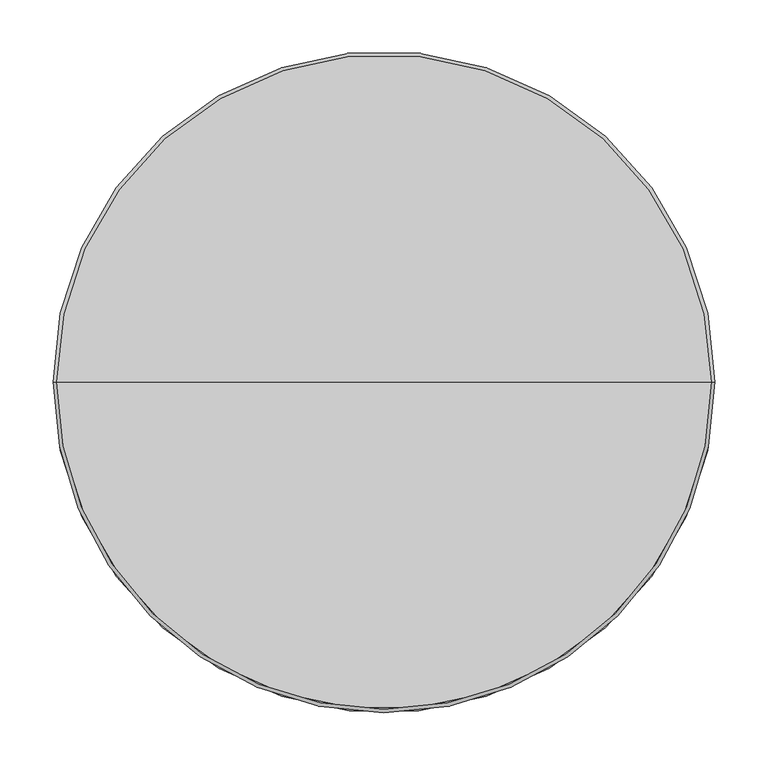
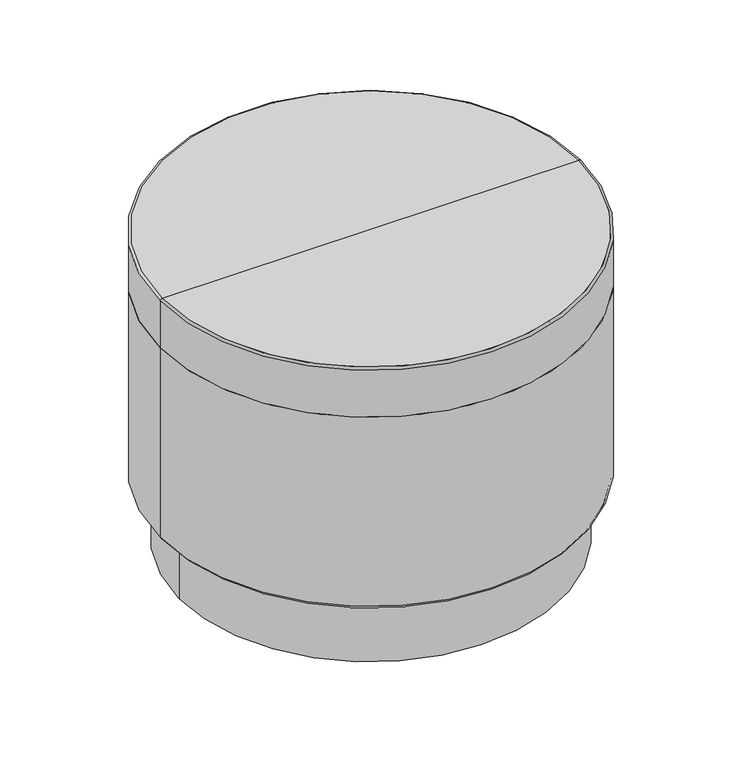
"""IFC4 building model written with IfcOpenShell, lengths in millimetres: furniture geometry, StanceHC-Drum_Table-Plinth_Base : 3-DRT24D20-U-PL."""

import ifcopenshell
import ifcopenshell.guid

model = None  # the IFC model being written
_history = None  # IfcOwnerHistory: only IFC2X3 demands one
_inside = {}  # id of a spatial element -> (the spatial element, [elements in it])
_under = {}  # id of a project, library or spatial element -> (it, [spatial elements below it])
_declared = {}  # id of a project -> (the project, [libraries it declares])
_typed = {}  # id of a type object -> (the type object, [elements of that type])
_made_of = {}  # id of a material, layer set ... -> (it, [elements and type objects made of it])


def new_model(schema):
    """Start an empty IFC model of exactly this schema.

    Asked for "IFC4X3", IfcOpenShell would pick the latest addendum, in which some entities
    have other attributes; the version numbers below select the first issue.
    IFC2X3 requires an IfcOwnerHistory on every rooted entity: one is made here for all.
    """
    global model, _history
    if schema == "IFC4X3":
        model = ifcopenshell.file(schema_version=(4, 3, 0, 0))
    else:
        model = ifcopenshell.file(schema=schema)
    _inside.clear()
    _under.clear()
    _declared.clear()
    _typed.clear()
    _made_of.clear()
    _history = None
    if model.schema == "IFC2X3":
        org = make("IfcOrganization", Name="unknown")
        user = make(
            "IfcPersonAndOrganization",
            ThePerson=make("IfcPerson", FamilyName="unknown"),
            TheOrganization=org,
        )
        app = make(
            "IfcApplication",
            ApplicationDeveloper=org,
            Version="unknown",
            ApplicationFullName="unknown",
            ApplicationIdentifier="unknown",
        )
        _history = make(
            "IfcOwnerHistory",
            OwningUser=user,
            OwningApplication=app,
            ChangeAction="ADDED",
            CreationDate=0,
        )
    return model


def make(cls, **values):
    """One entity of the class cls with the attributes given. An attribute that is None is left unset."""
    return model.create_entity(
        cls, **{name: value for name, value in values.items() if value is not None}
    )


def rooted(cls, **values):
    """An entity with a GlobalId (a new one), such as an element, a storey or a relation."""
    return make(cls, GlobalId=ifcopenshell.guid.new(), OwnerHistory=_history, **values)


def si_unit(unit_type, name, prefix=None):
    """IfcSIUnit, for example si_unit("LENGTHUNIT", "METRE", prefix="MILLI")."""
    return make("IfcSIUnit", UnitType=unit_type, Prefix=prefix, Name=name)


def assignment(units):
    """IfcUnitAssignment: the units of a project."""
    return None if units is None else make("IfcUnitAssignment", Units=units)


def point(xyz):
    """IfcCartesianPoint."""
    return None if xyz is None else make("IfcCartesianPoint", Coordinates=xyz)


def direction(xyz):
    """IfcDirection."""
    return None if xyz is None else make("IfcDirection", DirectionRatios=xyz)


def frame(location, z_axis=None, x_axis=None):
    """IfcAxis2Placement3D, a coordinate frame: its origin and axes. An axis left out is left unset."""
    return make(
        "IfcAxis2Placement3D",
        Location=point(location),
        Axis=direction(z_axis),
        RefDirection=direction(x_axis),
    )


def frame_2d(location, x_axis=None):
    """IfcAxis2Placement2D, a coordinate frame in the plane: its origin and x axis."""
    return make(
        "IfcAxis2Placement2D", Location=point(location), RefDirection=direction(x_axis)
    )


def origin():
    """The frame at (0, 0, 0) with its axes left unset."""
    return frame((0.0, 0.0, 0.0))


def origin_with_axes():
    """The frame at (0, 0, 0) with the z axis (0, 0, 1) and the x axis (1, 0, 0) written out."""
    return frame((0.0, 0.0, 0.0), z_axis=(0.0, 0.0, 1.0), x_axis=(1.0, 0.0, 0.0))


def place(relative_to, where):
    """IfcLocalPlacement: puts the frame where relative to a parent placement (None: the world)."""
    return make(
        "IfcLocalPlacement", PlacementRelTo=relative_to, RelativePlacement=where
    )


def context(
    kind, dimensions, precision=None, world=None, true_north=None, identifier=None
):
    """IfcGeometricRepresentationContext, for example the 3D "Model" context."""
    return make(
        "IfcGeometricRepresentationContext",
        ContextIdentifier=identifier,
        ContextType=kind,
        CoordinateSpaceDimension=dimensions,
        Precision=precision,
        WorldCoordinateSystem=world,
        TrueNorth=true_north,
    )


def project(units=None, contexts=None):
    """IfcProject with its units and contexts."""
    return rooted(
        "IfcProject",
        Name="project",
        RepresentationContexts=contexts,
        UnitsInContext=assignment(units),
    )


def spatial(cls, under=None, at=None, **own):
    """A site, building, storey or space (cls), placed at a placement, below another one or the project."""
    s = rooted(cls, ObjectPlacement=at, **own)
    if under is not None:
        _under.setdefault(under.id(), (under, []))[1].append(s)
    return s


def circle_curve(where, radius):
    """IfcCircle in the frame where."""
    return make("IfcCircle", Position=where, Radius=radius)


def ellipse_curve(where, semi_axis1, semi_axis2):
    """IfcEllipse in the frame where."""
    return make(
        "IfcEllipse", Position=where, SemiAxis1=semi_axis1, SemiAxis2=semi_axis2
    )


def trimmed(basis, trim1, trim2, sense, master):
    """IfcTrimmedCurve: the piece of a basis curve between two trims."""
    return make(
        "IfcTrimmedCurve",
        BasisCurve=basis,
        Trim1=trim1,
        Trim2=trim2,
        SenseAgreement=sense,
        MasterRepresentation=master,
    )


def segment(curve, same_sense, transition):
    """IfcCompositeCurveSegment."""
    return make(
        "IfcCompositeCurveSegment",
        Transition=transition,
        SameSense=same_sense,
        ParentCurve=curve,
    )


def composite_curve(segments, self_intersect=None):
    """IfcCompositeCurve: segments joined end to end."""
    return make("IfcCompositeCurve", Segments=segments, SelfIntersect=self_intersect)


def outline(outer, holes=None, kind="AREA"):
    """IfcArbitraryClosedProfileDef: a profile drawn as a closed curve; with holes, ...WithVoids."""
    if holes is None:
        return make("IfcArbitraryClosedProfileDef", ProfileType=kind, OuterCurve=outer)
    return make(
        "IfcArbitraryProfileDefWithVoids",
        ProfileType=kind,
        OuterCurve=outer,
        InnerCurves=holes,
    )


def extrude(swept, where, along, depth):
    """IfcExtrudedAreaSolid: the profile swept, set in the frame where, extruded along a direction by depth."""
    return make(
        "IfcExtrudedAreaSolid",
        SweptArea=swept,
        Position=where,
        ExtrudedDirection=direction(along),
        Depth=depth,
    )


def shape(context_of_items, identifier, shape_type, items):
    """IfcShapeRepresentation: the items that make up one representation, for example the "Body"."""
    return make(
        "IfcShapeRepresentation",
        ContextOfItems=context_of_items,
        RepresentationIdentifier=identifier,
        RepresentationType=shape_type,
        Items=items,
    )


def source(mapping_origin, context_of_items, identifier, shape_type, items):
    """IfcRepresentationMap: a shape defined once, which mapped items show again and again."""
    return make(
        "IfcRepresentationMap",
        MappingOrigin=mapping_origin,
        MappedRepresentation=shape(context_of_items, identifier, shape_type, items),
    )


def transform(
    local_origin,
    x_axis=None,
    y_axis=None,
    z_axis=None,
    scale=None,
    scale2=None,
    scale3=None,
    uniform=True,
):
    """IfcCartesianTransformationOperator3D, or its non-uniform kind. x_axis, y_axis, z_axis: its Axis1, 2, 3."""
    if uniform:
        return make(
            "IfcCartesianTransformationOperator3D",
            Axis1=direction(x_axis),
            Axis2=direction(y_axis),
            LocalOrigin=point(local_origin),
            Scale=scale,
            Axis3=direction(z_axis),
        )
    return make(
        "IfcCartesianTransformationOperator3DnonUniform",
        Axis1=direction(x_axis),
        Axis2=direction(y_axis),
        LocalOrigin=point(local_origin),
        Scale=scale,
        Axis3=direction(z_axis),
        Scale2=scale2,
        Scale3=scale3,
    )


def mapped(mapping_source, mapping_target):
    """IfcMappedItem: shows the shape of a source again, moved by a transform."""
    return make(
        "IfcMappedItem", MappingSource=mapping_source, MappingTarget=mapping_target
    )


def made_of(thing, what):
    """Note that an element or type object is made of a material, layer set ...; save() writes the relation."""
    if what is not None:
        _made_of.setdefault(what.id(), (what, []))[1].append(thing)
    return thing


def element(
    cls,
    number,
    at=None,
    inside=None,
    cuts=None,
    type_object=None,
    material=None,
    context=None,
    identifier="Body",
    shape_type=None,
    held_by="IfcProductDefinitionShape",
    body=None,
    shapes=None,
    **own,
):
    """One element of the class cls, such as IfcWall. Its Tag is "e" and its number.

    at: its placement. inside: the storey or other place that contains it. cuts: it is an
    opening in that element (IfcRelVoidsElement). A single representation is given by context,
    identifier, shape_type and body (its items); several are given by shapes. held_by: the class
    of the entity that holds the representations. save() writes the other relations.
    """
    e = rooted(cls, Tag="e%d" % number, ObjectPlacement=at, **own)
    if body is not None:
        shapes = [shape(context, identifier, shape_type, body)]
    if shapes is not None:
        e.Representation = make(held_by, Representations=shapes)
    if inside is not None:
        _inside.setdefault(inside.id(), (inside, []))[1].append(e)
    if cuts is not None:
        rooted(
            "IfcRelVoidsElement", RelatingBuildingElement=cuts, RelatedOpeningElement=e
        )
    if type_object is not None:
        _typed.setdefault(type_object.id(), (type_object, []))[1].append(e)
    return made_of(e, material)


def aggregate(whole, parts):
    """IfcRelAggregates: a whole, such as a stair, and the parts it consists of."""
    return rooted("IfcRelAggregates", RelatingObject=whole, RelatedObjects=parts)


def save(model, path):
    """Write the relations noted so far, then the file.

    IfcRelAggregates (storeys below a building ...), IfcRelContainedInSpatialStructure (elements
    in a storey), IfcRelDefinesByType, IfcRelAssociatesMaterial and IfcRelDeclares: one each for
    every whole, place, type object, material and project.
    """
    for whole, parts in _under.values():
        aggregate(whole, parts)
    for where, things in _inside.values():
        rooted(
            "IfcRelContainedInSpatialStructure",
            RelatedElements=things,
            RelatingStructure=where,
        )
    for kind, things in _typed.values():
        rooted("IfcRelDefinesByType", RelatedObjects=things, RelatingType=kind)
    for what, things in _made_of.values():
        rooted("IfcRelAssociatesMaterial", RelatedObjects=things, RelatingMaterial=what)
    for by, libraries in _declared.values():
        rooted("IfcRelDeclares", RelatingContext=by, RelatedDefinitions=libraries)
    model.write(path)


def plane_surface(at):
    """IfcPlane: the flat surface through the origin of the frame at, square to its z axis."""
    return make("IfcPlane", Position=at)


def cylinder_surface(at, radius):
    """IfcCylindricalSurface: all points at the distance radius from the z axis of the frame at."""
    return make("IfcCylindricalSurface", Position=at, Radius=radius)


def revolved_surface(curve, axis_point, axis_direction):
    """IfcSurfaceOfRevolution: the curve turned about the line through axis_point along axis_direction."""
    return make(
        "IfcSurfaceOfRevolution",
        SweptCurve=make("IfcArbitraryOpenProfileDef", ProfileType="CURVE", Curve=curve),
        AxisPosition=make("IfcAxis1Placement", Location=point(axis_point), Axis=direction(axis_direction)),
    )


def advanced_brep(points, edges, surfaces, faces):
    """IfcAdvancedBrep: a solid bounded by faces that lie on surfaces and meet in shared edges.

    An edge is (start, end): straight between two places in points (the first is 0);
    or (start, end, curve); or (start, end, curve, False) where it runs against its curve.
    A face is (place in surfaces, loops), or (place, loops, False) where it looks against
    its surface's normal. A loop lists edges by number (the first is 1), with a minus sign
    where the edge is run from its end to its start. The first loop is the outer one.
    """
    corners = [point(p) for p in points]
    vertices = [make("IfcVertexPoint", VertexGeometry=c) for c in corners]
    made = []
    for start, end, *more in edges:
        made.append(
            make(
                "IfcEdgeCurve",
                EdgeStart=vertices[start],
                EdgeEnd=vertices[end],
                EdgeGeometry=more[0] if more else make("IfcPolyline", Points=[corners[start], corners[end]]),
                SameSense=more[1] if len(more) > 1 else True,
            )
        )
    hull = []
    for where, loops, *sense in faces:
        bounds = []
        for j, loop in enumerate(loops):
            ring = [make("IfcOrientedEdge", EdgeElement=made[abs(k) - 1], Orientation=k > 0) for k in loop]
            bounds.append(
                make(
                    "IfcFaceOuterBound" if j == 0 else "IfcFaceBound",
                    Bound=make("IfcEdgeLoop", EdgeList=ring),
                    Orientation=True,
                )
            )
        hull.append(make("IfcAdvancedFace", Bounds=bounds, FaceSurface=surfaces[where], SameSense=sense[0] if sense else True))
    return make("IfcAdvancedBrep", Outer=make("IfcClosedShell", CfsFaces=hull))


def furniture_1fc6e2c9(model_context):
    return source(origin(), model_context, "Body", "SolidModel", [
        extrude(outline(composite_curve([segment(trimmed(circle_curve(frame_2d((0.0, 250.1164845)), 12.7), [point((-12.7, 250.1164845))], [point((12.7, 250.1164845))], False, "CARTESIAN"), True, "CONTINUOUS"), segment(trimmed(circle_curve(frame_2d((0.0, 250.1164845)), 12.7), [point((12.7, 250.1164845))], [point((-12.7, 250.1164845))], False, "CARTESIAN"), True, "CONTINUOUS")], self_intersect=False)), origin_with_axes(), (0.0, 0.0, 1.0), 4.7625),
        extrude(outline(composite_curve([segment(trimmed(circle_curve(frame_2d((0.0, -250.1164845)), 12.7), [point((-12.7, -250.1164845))], [point((12.7, -250.1164845))], False, "CARTESIAN"), True, "CONTINUOUS"), segment(trimmed(circle_curve(frame_2d((0.0, -250.1164845)), 12.7), [point((12.7, -250.1164845))], [point((-12.7, -250.1164845))], False, "CARTESIAN"), True, "CONTINUOUS")], self_intersect=False)), origin_with_axes(), (0.0, 0.0, 1.0), 4.7625),
        extrude(outline(composite_curve([segment(trimmed(circle_curve(frame_2d((253.9996404, 0.0)), 12.7), [point((241.2996404, 0.0))], [point((266.6996404, 0.0))], False, "CARTESIAN"), True, "CONTINUOUS"), segment(trimmed(circle_curve(frame_2d((253.9996404, 0.0)), 12.7), [point((266.6996404, 0.0))], [point((241.2996404, 0.0))], False, "CARTESIAN"), True, "CONTINUOUS")], self_intersect=False)), origin_with_axes(), (0.0, 0.0, 1.0), 4.7625),
        extrude(outline(composite_curve([segment(trimmed(circle_curve(frame_2d((-253.9996404, 0.0)), 12.7), [point((-266.6996404, 0.0))], [point((-241.2996404, 0.0))], False, "CARTESIAN"), True, "CONTINUOUS"), segment(trimmed(circle_curve(frame_2d((-253.9996404, 0.0)), 12.7), [point((-241.2996404, 0.0))], [point((-266.6996404, 0.0))], False, "CARTESIAN"), True, "CONTINUOUS")], self_intersect=False)), origin_with_axes(), (0.0, 0.0, 1.0), 4.7625),
        advanced_brep(
        [(-306.3542756, 0.0, 106.3625), (306.3542756, 0.0, 106.3625), (282.5746404, 0.0, 106.3625), (-282.5746404, 0.0, 106.3625), (-306.3542756, 0.0, 111.125), (306.3542756, 0.0, 111.125), (0.0, 0.0, 111.125), (-282.5746404, 0.0, 4.7625), (282.5746404, 0.0, 4.7625), (0.0, 0.0, 4.7625)],
        [
            (0, 1, circle_curve(frame((0.0, 0.0, 106.3625), z_axis=(0.0, 0.0, -1.0), x_axis=(1.0, 0.0, 0.0)), 306.3542756)),
            (1, 2),
            (2, 3, circle_curve(frame((0.0, 0.0, 106.3625), z_axis=(0.0, 0.0, 1.0), x_axis=(1.0, 0.0, 0.0)), 282.5746404)),
            (3, 0),
            (1, 0, circle_curve(frame((0.0, 0.0, 106.3625), z_axis=(0.0, 0.0, -1.0), x_axis=(1.0, 0.0, 0.0)), 306.3542756)),
            (3, 2, circle_curve(frame((0.0, 0.0, 106.3625), z_axis=(0.0, 0.0, 1.0), x_axis=(1.0, 0.0, 0.0)), 282.5746404)),
            (4, 5, circle_curve(frame((0.0, 0.0, 111.125), z_axis=(0.0, 0.0, -1.0), x_axis=(1.0, 0.0, 0.0)), 306.3542756)),
            (5, 1, circle_curve(frame((306.3542756, 0.0, 108.74375), z_axis=(0.0, 1.0, 0.0), x_axis=(1.0, 0.0, 0.0)), 2.38125)),
            (0, 4, circle_curve(frame((-306.3542756, 0.0, 108.74375), z_axis=(0.0, 1.0, 0.0), x_axis=(-1.0, 0.0, 0.0)), 2.38125)),
            (5, 4, circle_curve(frame((0.0, 0.0, 111.125), z_axis=(0.0, 0.0, -1.0), x_axis=(1.0, 0.0, 0.0)), 306.3542756)),
            (6, 5),
            (4, 6),
            (7, 8, circle_curve(frame((0.0, 0.0, 4.7625), z_axis=(0.0, 0.0, -1.0), x_axis=(1.0, 0.0, 0.0)), 282.5746404)),
            (8, 9),
            (9, 7),
            (8, 7, circle_curve(frame((0.0, 0.0, 4.7625), z_axis=(0.0, 0.0, -1.0), x_axis=(1.0, 0.0, 0.0)), 282.5746404)),
            (2, 8),
            (7, 3),
        ],
        [
            plane_surface(frame((0.0, 0.0, 106.3625), z_axis=(0.0, 0.0, -1.0), x_axis=(1.0, 0.0, 0.0))),
            revolved_surface(trimmed(ellipse_curve(frame((306.3542756, 0.0, 108.74375), z_axis=(0.0, -1.0, 0.0), x_axis=(1.0, 0.0, 0.0)), 2.38125, 2.38125), [point((306.3542756, 0.0, 106.3625))], [point((306.3542756, 0.0, 111.125))], True, "CARTESIAN"), (0.0, 0.0, 165.1), (0.0, 0.0, 1.0)),
            plane_surface(frame((0.0, 0.0, 111.125), z_axis=(0.0, 0.0, 1.0), x_axis=(1.0, 0.0, 0.0))),
            plane_surface(frame((0.0, 0.0, 4.7625), z_axis=(0.0, 0.0, -1.0), x_axis=(1.0, 0.0, 0.0))),
            cylinder_surface(frame((0.0, 0.0, 165.1), z_axis=(0.0, 0.0, 1.0), x_axis=(1.0, 0.0, 0.0)), 282.5746404),
        ],
        [
            (0, [[1, 2, 3, 4]]),
            (0, [[5, -4, 6, -2]]),
            (1, [[7, 8, -1, 9]]),
            (1, [[10, -9, -5, -8]]),
            (2, [[11, -7, 12]]),
            (2, [[-12, -10, -11]]),
            (3, [[13, 14, 15]]),
            (3, [[16, -15, -14]]),
            (4, [[-3, 17, -13, 18]]),
            (4, [[-6, -18, -16, -17]]),
        ],
    ),
        advanced_brep(
        [(0.0, 0.0, 406.4), (311.15, 0.0, 406.4), (-311.15, 0.0, 406.4), (-311.15, 0.0, 111.125), (311.15, 0.0, 111.125), (0.0, 0.0, 111.125)],
        [
            (0, 1),
            (1, 2, circle_curve(frame((0.0, 0.0, 406.4), z_axis=(0.0, 0.0, 1.0), x_axis=(1.0, 0.0, 0.0)), 311.15)),
            (2, 0),
            (2, 1, circle_curve(frame((0.0, 0.0, 406.4), z_axis=(0.0, 0.0, 1.0), x_axis=(1.0, 0.0, 0.0)), 311.15)),
            (3, 4, circle_curve(frame((0.0, 0.0, 111.125), z_axis=(0.0, 0.0, -1.0), x_axis=(1.0, 0.0, 0.0)), 311.15)),
            (4, 5),
            (5, 3),
            (4, 3, circle_curve(frame((0.0, 0.0, 111.125), z_axis=(0.0, 0.0, -1.0), x_axis=(1.0, 0.0, 0.0)), 311.15)),
            (1, 4),
            (3, 2),
        ],
        [
            plane_surface(frame((0.0, 0.0, 406.4), z_axis=(0.0, 0.0, 1.0), x_axis=(1.0, 0.0, 0.0))),
            plane_surface(frame((0.0, 0.0, 111.125), z_axis=(0.0, 0.0, -1.0), x_axis=(1.0, 0.0, 0.0))),
            cylinder_surface(frame((0.0, 0.0, 558.8), z_axis=(0.0, 0.0, 1.0), x_axis=(1.0, 0.0, 0.0)), 311.15),
        ],
        [
            (0, [[1, 2, 3]]),
            (0, [[-3, 4, -1]]),
            (1, [[5, 6, 7]]),
            (1, [[8, -7, -6]]),
            (2, [[-2, 9, -5, 10]]),
            (2, [[-4, -10, -8, -9]]),
        ],
    ),
        advanced_brep(
        [(-311.15, 0.0, 406.4), (311.15, 0.0, 406.4), (0.0, 0.0, 406.4), (-311.15, 0.0, 479.4764933), (311.15, 0.0, 479.4764933), (-308.0264933, 0.0, 482.6), (308.0264933, 0.0, 482.6), (0.0, 0.0, 482.6)],
        [
            (0, 1, circle_curve(frame((0.0, 0.0, 406.4), z_axis=(0.0, 0.0, -1.0), x_axis=(1.0, 0.0, 0.0)), 311.15)),
            (1, 2),
            (2, 0),
            (1, 0, circle_curve(frame((0.0, 0.0, 406.4), z_axis=(0.0, 0.0, -1.0), x_axis=(1.0, 0.0, 0.0)), 311.15)),
            (3, 4, circle_curve(frame((0.0, 0.0, 479.4764933), z_axis=(0.0, 0.0, -1.0), x_axis=(1.0, 0.0, 0.0)), 311.15)),
            (4, 1),
            (0, 3),
            (4, 3, circle_curve(frame((0.0, 0.0, 479.4764933), z_axis=(0.0, 0.0, -1.0), x_axis=(1.0, 0.0, 0.0)), 311.15)),
            (5, 6, circle_curve(frame((0.0, 0.0, 482.6), z_axis=(0.0, 0.0, -1.0), x_axis=(1.0, 0.0, 0.0)), 308.0264933)),
            (6, 4, circle_curve(frame((308.0264933, 0.0, 479.4764933), z_axis=(0.0, 1.0, 0.0), x_axis=(1.0, 0.0, 0.0)), 3.1235067)),
            (3, 5, circle_curve(frame((-308.0264933, 0.0, 479.4764933), z_axis=(0.0, 1.0, 0.0), x_axis=(-1.0, 0.0, 0.0)), 3.1235067)),
            (6, 5, circle_curve(frame((0.0, 0.0, 482.6), z_axis=(0.0, 0.0, -1.0), x_axis=(1.0, 0.0, 0.0)), 308.0264933)),
            (7, 6),
            (5, 7),
        ],
        [
            plane_surface(frame((0.0, 0.0, 406.4), z_axis=(0.0, 0.0, -1.0), x_axis=(1.0, 0.0, 0.0))),
            cylinder_surface(frame((0.0, 0.0, 577.85), z_axis=(0.0, 0.0, 1.0), x_axis=(1.0, 0.0, 0.0)), 311.15),
            revolved_surface(trimmed(ellipse_curve(frame((308.0264933, 0.0, 479.4764933), z_axis=(0.0, -1.0, 0.0), x_axis=(1.0, 0.0, 0.0)), 3.1235067, 3.1235067), [point((311.15, 0.0, 479.4764933))], [point((308.0264933, 0.0, 482.6))], True, "CARTESIAN"), (0.0, 0.0, 577.85), (0.0, 0.0, 1.0)),
            plane_surface(frame((0.0, 0.0, 482.6), z_axis=(0.0, 0.0, 1.0), x_axis=(1.0, 0.0, 0.0))),
        ],
        [
            (0, [[1, 2, 3]]),
            (0, [[4, -3, -2]]),
            (1, [[5, 6, -1, 7]]),
            (1, [[8, -7, -4, -6]]),
            (2, [[9, 10, -5, 11]]),
            (2, [[12, -11, -8, -10]]),
            (3, [[13, -9, 14]]),
            (3, [[-14, -12, -13]]),
        ],
    ),
    ])


if __name__ == "__main__":
    model = new_model("IFC4")
    model_context = context("Model", 3, world=origin())
    ifc_project = project(units=[si_unit("LENGTHUNIT", "METRE", prefix="MILLI")], contexts=[model_context])
    site = spatial("IfcSite", under=ifc_project)
    building = spatial("IfcBuilding", under=site)
    placement = place(None, origin())
    furniture_shape = furniture_1fc6e2c9(model_context)
    element("IfcFurniture", 1, ObjectType="StanceHC-Drum_Table-Plinth_Base : 3-DRT24D20-U-PL", at=placement, inside=building, context=model_context, shape_type="MappedRepresentation", body=[
        mapped(furniture_shape, transform((0.0, 0.0, 0.0), x_axis=(1.0, 0.0, 0.0), y_axis=(0.0, 1.0, 0.0), z_axis=(0.0, 0.0, 1.0))),
    ])
    save(model, "model.ifc")
